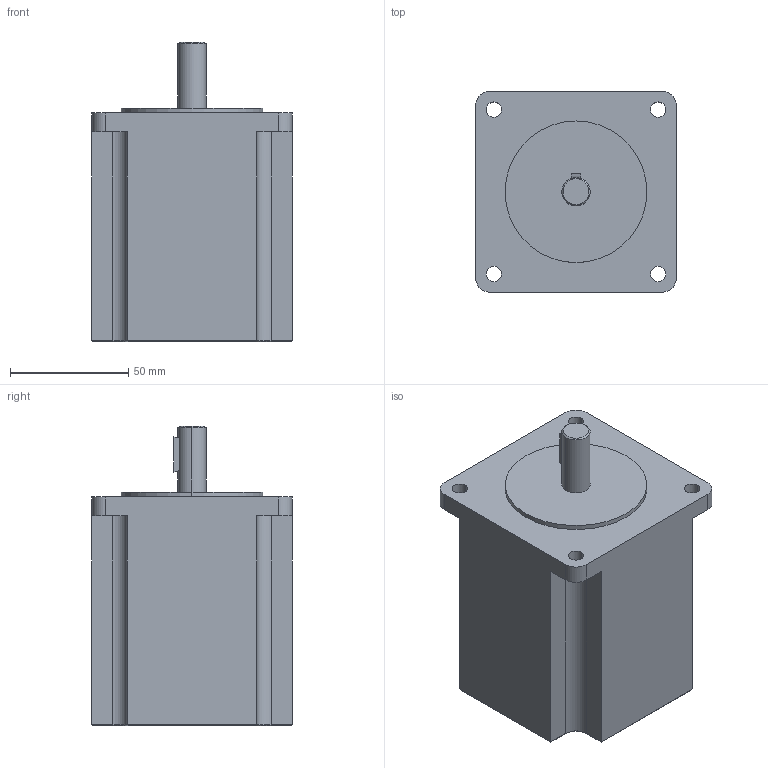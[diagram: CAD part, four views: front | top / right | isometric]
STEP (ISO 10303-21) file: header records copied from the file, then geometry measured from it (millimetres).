
FILE_DESCRIPTION (( 'STEP AP214' ), '1' );
FILE_NAME ('3S85Q-04097.STEP', '2021-03-23T07:46:23', ( '' ), ( '' ), 'SwSTEP 2.0', 'SolidWorks 2020', '' );
FILE_SCHEMA (( 'AUTOMOTIVE_DESIGN' ));
Length unit declared in the file: millimetre
Products named in the file (1): 3S85Q-04097
Bounding box: 85 x 85 x 127 mm (x, y, z)
Volume: 631237.9 mm3; surface area: 48375.5 mm2
Topology: 2 solids, 2 shells, 62 faces, 150 edges, 94 vertices
Faces by surface type: plane 35, cylinder 21, cone 6
Entity records: 1857 total; most frequent: DIRECTION 324, CARTESIAN_POINT 307, ORIENTED_EDGE 300, EDGE_CURVE 150, AXIS2_PLACEMENT_3D 111, LINE 102, VECTOR 102, VERTEX_POINT 94
